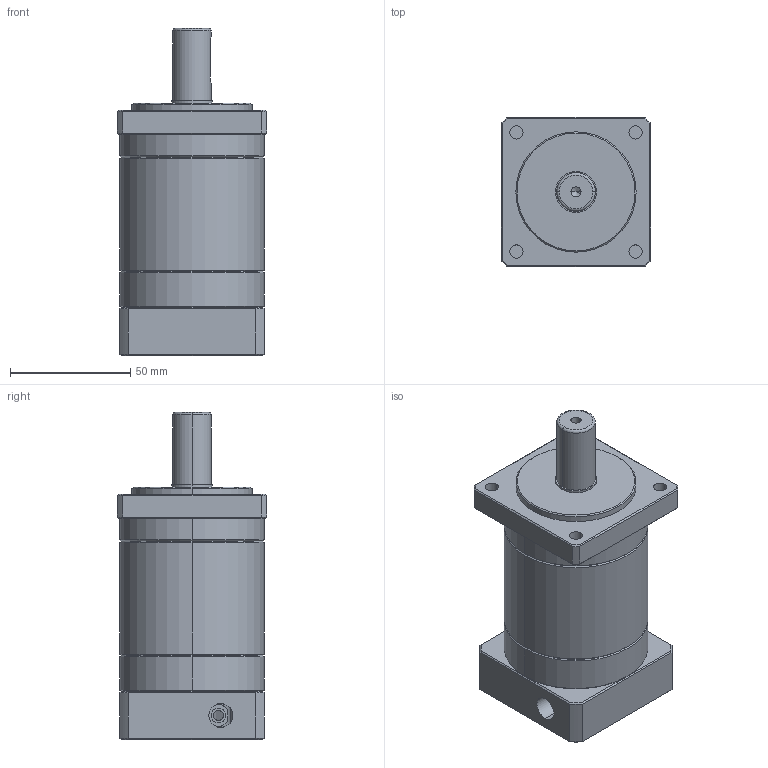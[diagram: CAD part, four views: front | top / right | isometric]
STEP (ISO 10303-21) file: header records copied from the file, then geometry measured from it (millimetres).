
FILE_DESCRIPTION (( 'STEP AP203' ), '1' );
FILE_NAME ('PX60-L2£r50£r70M5.STEP', '2019-03-18T07:55:02', ( 'KELLY' ), ( '' ), 'SwSTEP 2.0', 'SolidWorks 2012', '' );
FILE_SCHEMA (( 'CONFIG_CONTROL_DESIGN' ));
Length unit declared in the file: millimetre
Products named in the file (1): PX60-L2｣r50｣r70M5
Bounding box: 62 x 62 x 136 mm (x, y, z)
Volume: 289292.4 mm3; surface area: 53807.6 mm2
Topology: 3 solids, 3 shells, 172 faces, 406 edges, 244 vertices
Faces by surface type: cylinder 70, plane 56, cone 38, torus 8
Entity records: 5458 total; most frequent: CARTESIAN_POINT 1421, DIRECTION 857, ORIENTED_EDGE 792, EDGE_CURVE 396, AXIS2_PLACEMENT_3D 346, VERTEX_POINT 244, EDGE_LOOP 206, CIRCLE 173
